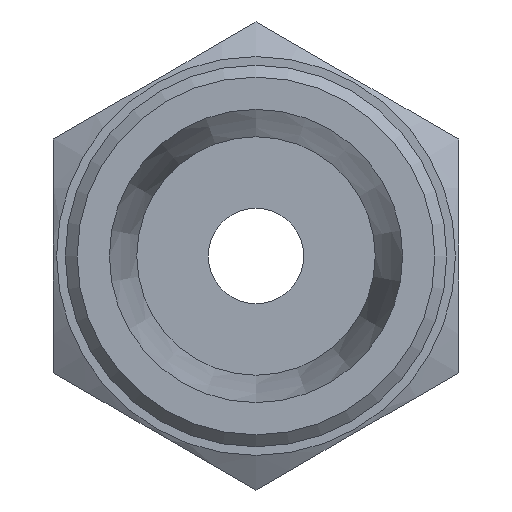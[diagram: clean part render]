
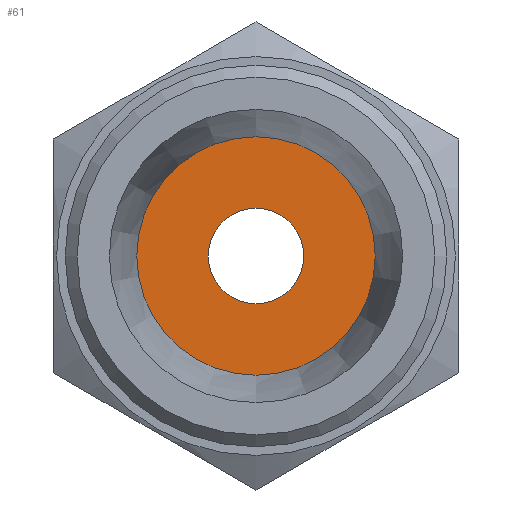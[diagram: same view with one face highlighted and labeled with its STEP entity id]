
A CAD part, left-side view. The second image highlights one B-rep face of the part: STEP entity #61.
In plain terms, the highlighted planar face has unit normal (-1, 0, 0).
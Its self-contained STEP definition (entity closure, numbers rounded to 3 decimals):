
#61 = ADVANCED_FACE( '', ( #146, #147 ), #148, .F. );
#146 = FACE_BOUND( '', #271, .T. );
#147 = FACE_OUTER_BOUND( '', #272, .T. );
#148 = PLANE( '', #273 );
#271 = EDGE_LOOP( '', ( #396 ) );
#272 = EDGE_LOOP( '', ( #397 ) );
#273 = AXIS2_PLACEMENT_3D( '', #398, #399, #400 );
#396 = ORIENTED_EDGE( '', *, *, #594, .T. );
#397 = ORIENTED_EDGE( '', *, *, #595, .T. );
#398 = CARTESIAN_POINT( '', ( -19., 0., 5. ) );
#399 = DIRECTION( '', ( 1., 0., 0. ) );
#400 = DIRECTION( '', ( 0., 0., -1. ) );
#594 = EDGE_CURVE( '', #672, #672, #673, .T. );
#595 = EDGE_CURVE( '', #674, #674, #675, .T. );
#672 = VERTEX_POINT( '', #781 );
#673 = CIRCLE( '', #782, 2. );
#674 = VERTEX_POINT( '', #783 );
#675 = CIRCLE( '', #784, 5. );
#781 = CARTESIAN_POINT( '', ( -19., 0., -2. ) );
#782 = AXIS2_PLACEMENT_3D( '', #1021, #1022, #1023 );
#783 = CARTESIAN_POINT( '', ( -19., 0., 5. ) );
#784 = AXIS2_PLACEMENT_3D( '', #1024, #1025, #1026 );
#1021 = CARTESIAN_POINT( '', ( -19., 0., 0. ) );
#1022 = DIRECTION( '', ( 1., 0., 0. ) );
#1023 = DIRECTION( '', ( 0., 0., -1. ) );
#1024 = CARTESIAN_POINT( '', ( -19., 0., 0. ) );
#1025 = DIRECTION( '', ( -1., 0., 0. ) );
#1026 = DIRECTION( '', ( 0., 0., 1. ) );
